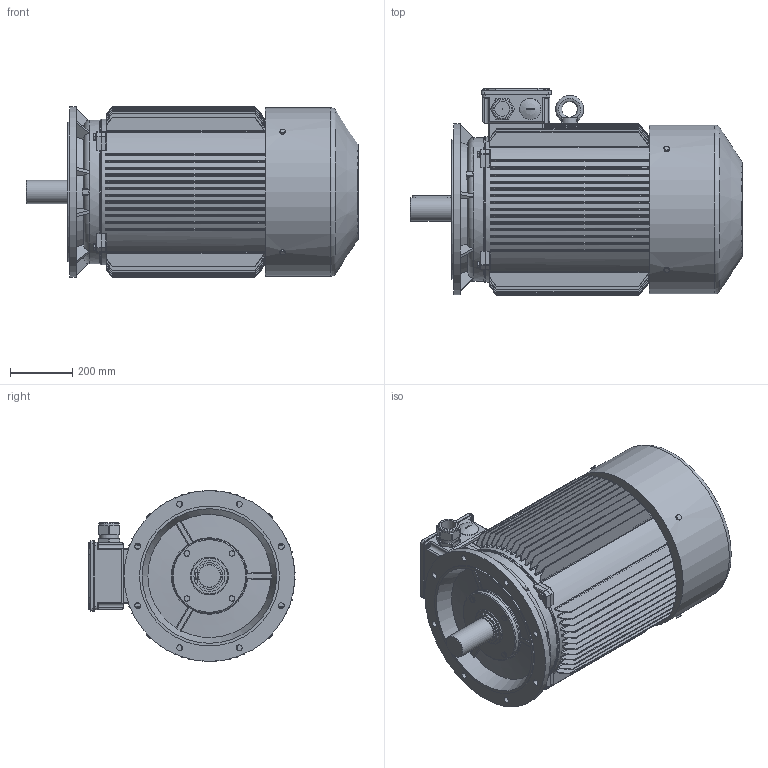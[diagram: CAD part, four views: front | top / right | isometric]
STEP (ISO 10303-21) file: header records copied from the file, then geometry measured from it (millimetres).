
FILE_DESCRIPTION((''),'2;1');
FILE_NAME('U:\Inventor 2012\121 - OMEC MOTORS\1408 - MOTOREN CAD BIBLIOTHEEK\1408 - Gereed\Step files\Step zonder Omec logo\280\OMT1-280M B5 - 4-6 Pole IE3.stp','2015-02-06T13:09:51',('Freek'),(''),'Autodesk Inventor 2012','Autodesk Inventor 2012','');
FILE_SCHEMA(('AUTOMOTIVE_DESIGN { 1 0 10303 214 1 1 1 1 }'));
Length unit declared in the file: millimetre
Products named in the file (1): 1408-198
Bounding box: 1068.1 x 666.03 x 552.15 mm (x, y, z)
Volume: 177493796.9 mm3; surface area: 4833678.9 mm2
Topology: 3 solids, 21 shells, 3457 faces, 8401 edges, 5479 vertices
Faces by surface type: plane 2781, cylinder 391, cone 243, torus 17, sphere 14, bspline 11
Full cylindrical faces by diameter (mm): 1 x2, 9.188 x8, 10 x24, 11.053 x4, 11.5 x1, 12 x8, 15.4 x12, 17.2 x4, 19 x8, 48 x1, 60 x1, 63 x1, 66 x1, 68 x1, 75 x1, 85 x1, 94.8 x1, 99.8 x1, 100 x1, 116 x1, 240 x2, 296 x1, 450 x1, 462 x1, 468 x2, 543 x1, 550 x1
Entity records: 107218 total; most frequent: CARTESIAN_POINT 24322, ORIENTED_EDGE 16492, DIRECTION 15245, EDGE_CURVE 8246, VECTOR 6551, LINE 6551, VERTEX_POINT 5440, AXIS2_PLACEMENT_3D 4347
